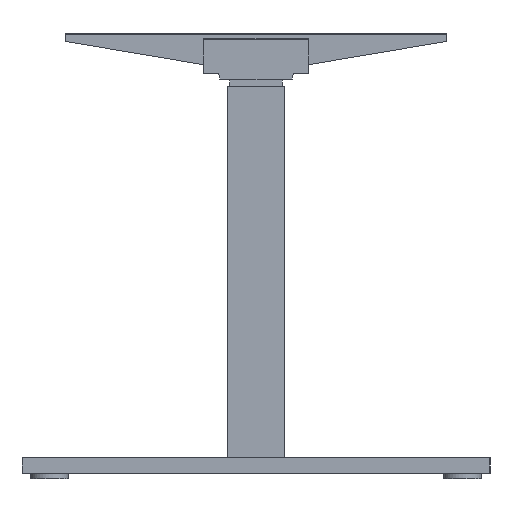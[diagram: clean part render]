
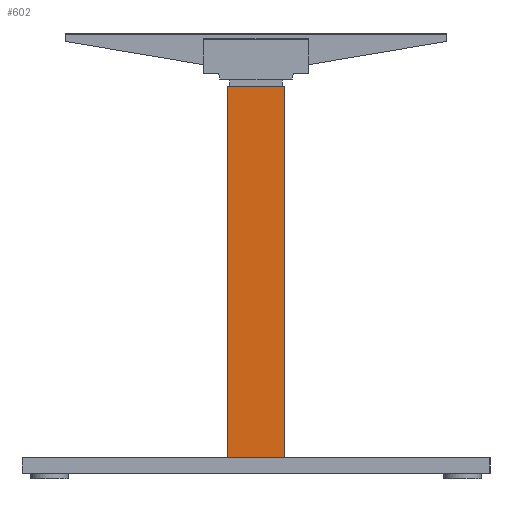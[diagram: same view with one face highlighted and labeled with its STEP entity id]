
A CAD part, left-side view. The second image highlights one B-rep face of the part: STEP entity #602.
In plain terms, the highlighted planar face has unit normal (-1, 0, 0).
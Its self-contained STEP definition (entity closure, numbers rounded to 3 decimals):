
#602 = ADVANCED_FACE( '', ( #1256 ), #1257, .F. );
#1256 = FACE_OUTER_BOUND( '', #2000, .T. );
#1257 = PLANE( '', #2001 );
#2000 = EDGE_LOOP( '', ( #3242, #3243, #3244, #3245 ) );
#2001 = AXIS2_PLACEMENT_3D( '', #3246, #3247, #3248 );
#3242 = ORIENTED_EDGE( '', *, *, #4295, .F. );
#3243 = ORIENTED_EDGE( '', *, *, #4381, .F. );
#3244 = ORIENTED_EDGE( '', *, *, #4401, .F. );
#3245 = ORIENTED_EDGE( '', *, *, #4402, .F. );
#3246 = CARTESIAN_POINT( '', ( -30., 0., 0. ) );
#3247 = DIRECTION( '', ( 1., 0., 0. ) );
#3248 = DIRECTION( '', ( 0., 0., -1. ) );
#4295 = EDGE_CURVE( '', #5145, #5146, #5147, .T. );
#4381 = EDGE_CURVE( '', #5270, #5145, #5271, .T. );
#4401 = EDGE_CURVE( '', #5297, #5270, #5298, .T. );
#4402 = EDGE_CURVE( '', #5146, #5297, #5299, .T. );
#5145 = VERTEX_POINT( '', #6259 );
#5146 = VERTEX_POINT( '', #6260 );
#5147 = LINE( '', #6261, #6262 );
#5270 = VERTEX_POINT( '', #6447 );
#5271 = LINE( '', #6448, #6449 );
#5297 = VERTEX_POINT( '', #6484 );
#5298 = LINE( '', #6485, #6486 );
#5299 = LINE( '', #6487, #6488 );
#6259 = CARTESIAN_POINT( '', ( -30., -45., 584. ) );
#6260 = CARTESIAN_POINT( '', ( -30., -45., 0. ) );
#6261 = CARTESIAN_POINT( '', ( -30., -45., 584. ) );
#6262 = VECTOR( '', #7164, 1000. );
#6447 = CARTESIAN_POINT( '', ( -30., 45., 584. ) );
#6448 = CARTESIAN_POINT( '', ( -30., 45., 584. ) );
#6449 = VECTOR( '', #7242, 1000. );
#6484 = CARTESIAN_POINT( '', ( -30., 45., 0. ) );
#6485 = CARTESIAN_POINT( '', ( -30., 45., 0. ) );
#6486 = VECTOR( '', #7264, 1000. );
#6487 = CARTESIAN_POINT( '', ( -30., -45., 0. ) );
#6488 = VECTOR( '', #7265, 1000. );
#7164 = DIRECTION( '', ( 0., 0., -1. ) );
#7242 = DIRECTION( '', ( 0., -1., 0. ) );
#7264 = DIRECTION( '', ( 0., 0., 1. ) );
#7265 = DIRECTION( '', ( 0., 1., 0. ) );
